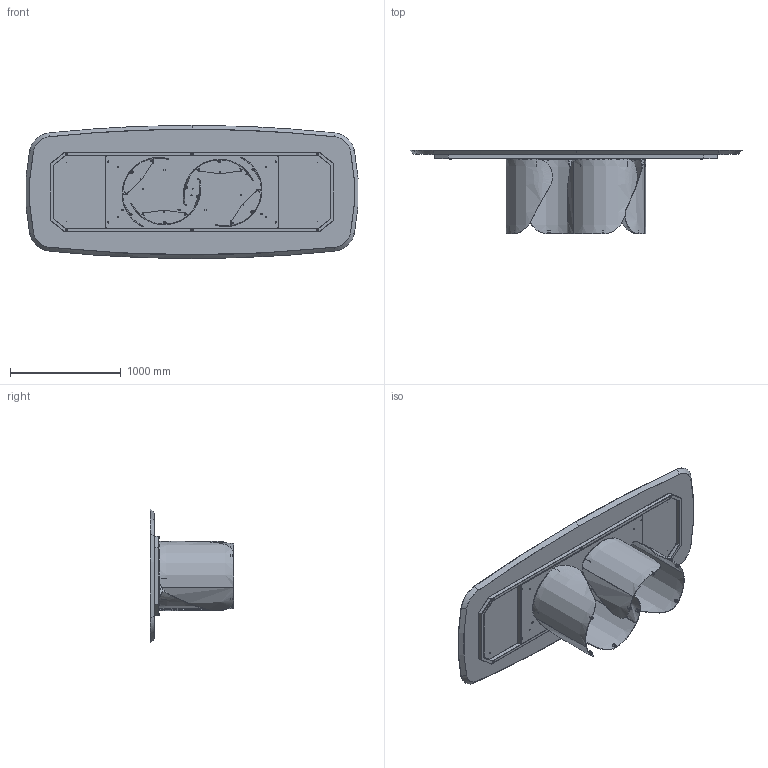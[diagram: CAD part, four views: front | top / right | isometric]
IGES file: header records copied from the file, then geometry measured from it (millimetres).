
Start section: SolidWorks IGES file using analytic representation for surfaces
Global section: file name: Y:\eforma\TECNICO\SOLIDWORKS\E-FORMA\1-TAVOLI\ONDA\02 parts\ON44W.IGS; native system: SolidWorks 2022; preprocessor: SolidWorks 2022; author: eforma.tech; date: 240806.154435; units: millimetre
Bounding box: 2991.72 x 754 x 1200 mm (x, y, z)
Volume: 140444535.8 mm3; surface area: 15453268.5 mm2
Topology: 79 solids, 79 shells, 2201 faces, 5062 edges, 3028 vertices
Faces by surface type: revolution 1341, plane 780, bspline 80
